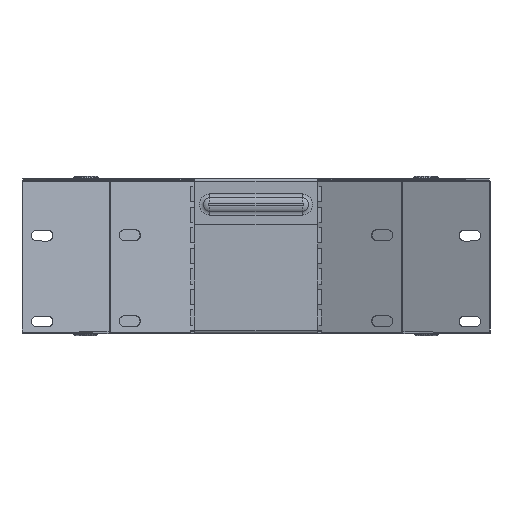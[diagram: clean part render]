
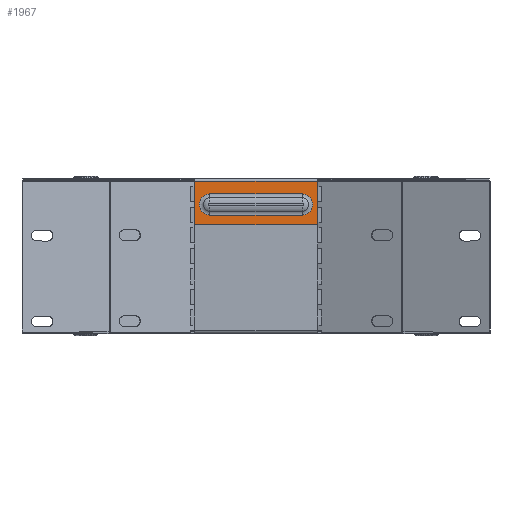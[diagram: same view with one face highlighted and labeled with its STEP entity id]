
A CAD part, top view. The second image highlights one B-rep face of the part: STEP entity #1967.
In plain terms, the highlighted planar face has unit normal (0, 0, 1).
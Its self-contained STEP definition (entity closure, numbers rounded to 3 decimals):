
#295 = CARTESIAN_POINT ( 'NONE',  ( -30., 76.983, 1.445 ) ) ;
#710 = CARTESIAN_POINT ( 'NONE',  ( 40., 70.8, 1.445 ) ) ;
#986 = CARTESIAN_POINT ( 'NONE',  ( 40., 100., 1.445 ) ) ;
#1175 = AXIS2_PLACEMENT_3D ( 'NONE', #19909, #8836, #8689 ) ;
#1334 = CARTESIAN_POINT ( 'NONE',  ( 0., 100.8, 1.445 ) ) ;
#1549 = ORIENTED_EDGE ( 'NONE', *, *, #20028, .T. ) ;
#1804 = CARTESIAN_POINT ( 'NONE',  ( 30., 90.817, 1.445 ) ) ;
#1843 = EDGE_CURVE ( 'NONE', #12207, #1861, #2114, .T. ) ;
#1861 = VERTEX_POINT ( 'NONE', #16818 ) ;
#1967 = ADVANCED_FACE ( 'NONE', ( #3568, #7020 ), #4446, .F. ) ;
#2114 = LINE ( 'NONE', #986, #13721 ) ;
#2283 = EDGE_CURVE ( 'NONE', #9173, #16735, #16964, .T. ) ;
#2847 = EDGE_CURVE ( 'NONE', #8269, #1861, #8487, .T. ) ;
#3200 = CARTESIAN_POINT ( 'NONE',  ( -40., 70.8, 1.445 ) ) ;
#3278 = AXIS2_PLACEMENT_3D ( 'NONE', #1334, #8962, #15578 ) ;
#3568 = FACE_BOUND ( 'NONE', #6539, .T. ) ;
#3807 = DIRECTION ( 'NONE',  ( 0., 1., 0. ) ) ;
#4125 = VERTEX_POINT ( 'NONE', #4844 ) ;
#4446 = PLANE ( 'NONE',  #3278 ) ;
#4609 = VECTOR ( 'NONE', #11437, 1000. ) ;
#4844 = CARTESIAN_POINT ( 'NONE',  ( -40., 70.8, 1.445 ) ) ;
#5142 = CARTESIAN_POINT ( 'NONE',  ( -40., 99., 1.445 ) ) ;
#5249 = EDGE_CURVE ( 'NONE', #10654, #15679, #11759, .T. ) ;
#5982 = CARTESIAN_POINT ( 'NONE',  ( 30., 76.983, 1.445 ) ) ;
#6077 = VECTOR ( 'NONE', #14945, 1000. ) ;
#6160 = EDGE_CURVE ( 'NONE', #4125, #12207, #12727, .T. ) ;
#6539 = EDGE_LOOP ( 'NONE', ( #9589, #16563, #20306, #1549 ) ) ;
#6554 = DIRECTION ( 'NONE',  ( 0., -1., 0. ) ) ;
#6891 = CARTESIAN_POINT ( 'NONE',  ( 30., 90.817, 1.445 ) ) ;
#7020 = FACE_OUTER_BOUND ( 'NONE', #18104, .T. ) ;
#7066 = DIRECTION ( 'NONE',  ( 1., 0., 0. ) ) ;
#7574 = VECTOR ( 'NONE', #9598, 1000. ) ;
#7929 = AXIS2_PLACEMENT_3D ( 'NONE', #17857, #8483, #3807 ) ;
#8269 = VERTEX_POINT ( 'NONE', #5142 ) ;
#8483 = DIRECTION ( 'NONE',  ( 0., 0., -1. ) ) ;
#8487 = LINE ( 'NONE', #14976, #16426 ) ;
#8689 = DIRECTION ( 'NONE',  ( 0., 1., 0. ) ) ;
#8836 = DIRECTION ( 'NONE',  ( 0., 0., -1. ) ) ;
#8962 = DIRECTION ( 'NONE',  ( 0., 0., -1. ) ) ;
#9173 = VERTEX_POINT ( 'NONE', #5982 ) ;
#9589 = ORIENTED_EDGE ( 'NONE', *, *, #5249, .T. ) ;
#9598 = DIRECTION ( 'NONE',  ( 1., 0., 0. ) ) ;
#9715 = CARTESIAN_POINT ( 'NONE',  ( 30., 76.983, 1.445 ) ) ;
#9777 = CARTESIAN_POINT ( 'NONE',  ( -30., 90.817, 1.445 ) ) ;
#10120 = ORIENTED_EDGE ( 'NONE', *, *, #1843, .T. ) ;
#10654 = VERTEX_POINT ( 'NONE', #9777 ) ;
#11216 = ORIENTED_EDGE ( 'NONE', *, *, #2847, .F. ) ;
#11437 = DIRECTION ( 'NONE',  ( -1., 0., 0. ) ) ;
#11759 = LINE ( 'NONE', #1804, #7574 ) ;
#11763 = VECTOR ( 'NONE', #6554, 1000. ) ;
#12207 = VERTEX_POINT ( 'NONE', #20223 ) ;
#12727 = LINE ( 'NONE', #710, #6077 ) ;
#12769 = LINE ( 'NONE', #3200, #11763 ) ;
#13721 = VECTOR ( 'NONE', #19898, 1000. ) ;
#14945 = DIRECTION ( 'NONE',  ( 1., 0., 0. ) ) ;
#14976 = CARTESIAN_POINT ( 'NONE',  ( 0., 99., 1.445 ) ) ;
#15578 = DIRECTION ( 'NONE',  ( 0., 1., 0. ) ) ;
#15679 = VERTEX_POINT ( 'NONE', #6891 ) ;
#15797 = CIRCLE ( 'NONE', #1175, 6.917 ) ;
#16426 = VECTOR ( 'NONE', #7066, 1000. ) ;
#16563 = ORIENTED_EDGE ( 'NONE', *, *, #17154, .T. ) ;
#16735 = VERTEX_POINT ( 'NONE', #295 ) ;
#16818 = CARTESIAN_POINT ( 'NONE',  ( 40., 99., 1.445 ) ) ;
#16964 = LINE ( 'NONE', #9715, #4609 ) ;
#17154 = EDGE_CURVE ( 'NONE', #15679, #9173, #15797, .T. ) ;
#17424 = EDGE_CURVE ( 'NONE', #8269, #4125, #12769, .T. ) ;
#17857 = CARTESIAN_POINT ( 'NONE',  ( -30., 83.9, 1.445 ) ) ;
#17904 = ORIENTED_EDGE ( 'NONE', *, *, #17424, .T. ) ;
#18104 = EDGE_LOOP ( 'NONE', ( #11216, #17904, #18976, #10120 ) ) ;
#18976 = ORIENTED_EDGE ( 'NONE', *, *, #6160, .T. ) ;
#19898 = DIRECTION ( 'NONE',  ( 0., 1., 0. ) ) ;
#19909 = CARTESIAN_POINT ( 'NONE',  ( 30., 83.9, 1.445 ) ) ;
#20028 = EDGE_CURVE ( 'NONE', #16735, #10654, #20179, .T. ) ;
#20179 = CIRCLE ( 'NONE', #7929, 6.917 ) ;
#20223 = CARTESIAN_POINT ( 'NONE',  ( 40., 70.8, 1.445 ) ) ;
#20306 = ORIENTED_EDGE ( 'NONE', *, *, #2283, .T. ) ;
